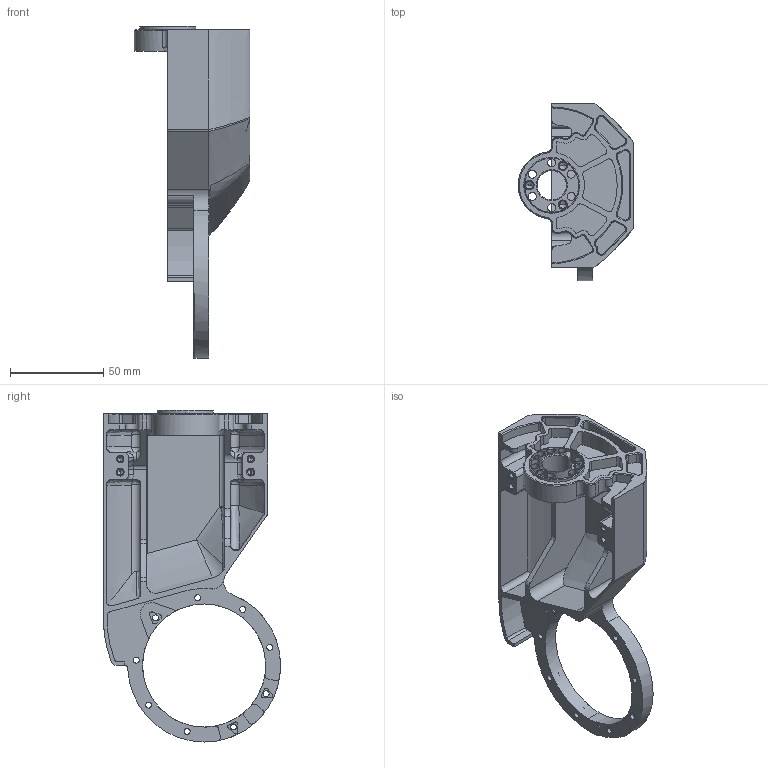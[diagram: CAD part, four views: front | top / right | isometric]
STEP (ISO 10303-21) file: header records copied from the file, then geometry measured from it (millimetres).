
FILE_DESCRIPTION((''),'2;1');
FILE_NAME('KD-C-301R_LOWERBICEPDRIVE_1','2025-07-12T14:13:43',('Administrator'),(''),'CREO PARAMETRIC BY PTC INC, 2022073','CREO PARAMETRIC BY PTC INC, 2022073','');
FILE_SCHEMA(('CONFIG_CONTROL_DESIGN'));
Length unit declared in the file: millimetre
Products named in the file (1): KD-C-301R_LOWERBICEPDRIVE_1
Bounding box: 62 x 95 x 178 mm (x, y, z)
Volume: 103490.8 mm3; surface area: 60729 mm2
Topology: 1 solids, 1 shells, 474 faces, 1335 edges, 851 vertices
Faces by surface type: cylinder 209, plane 111, cone 86, bspline 45, extrusion 15, torus 7, revolution 1
Entity records: 21352 total; most frequent: CARTESIAN_POINT 9082, ORIENTED_EDGE 2604, DIRECTION 2593, EDGE_CURVE 1302, AXIS2_PLACEMENT_3D 1014, VERTEX_POINT 851, CIRCLE 601, VECTOR 564
